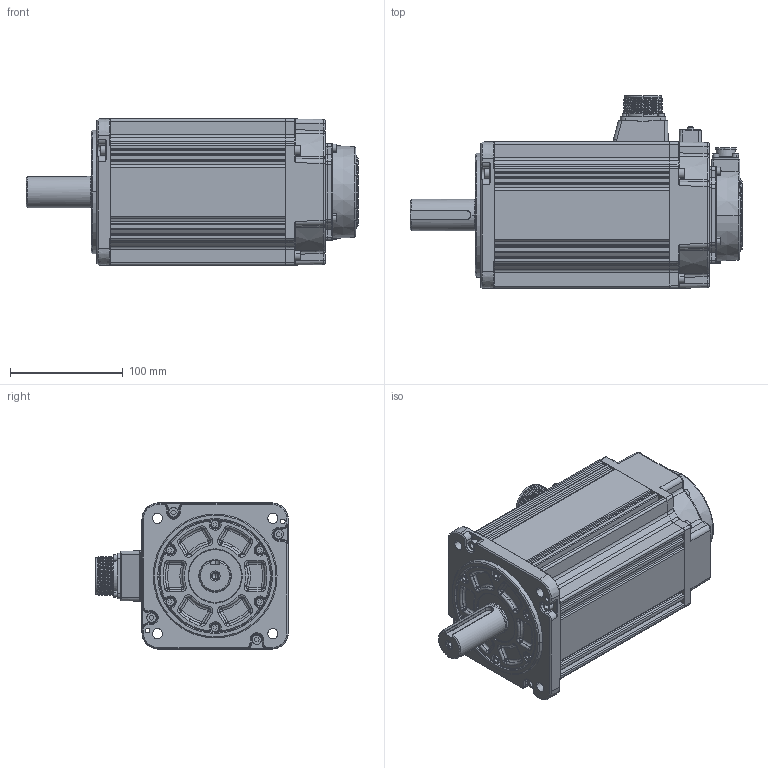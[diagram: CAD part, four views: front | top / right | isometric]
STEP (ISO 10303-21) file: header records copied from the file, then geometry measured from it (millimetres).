
FILE_DESCRIPTION (( 'STEP AP203' ), '1' );
FILE_NAME ('MS6S-130CN30BZ2-43P0.STEP', '2024-06-17T01:21:18', ( '' ), ( '' ), 'SwSTEP 2.0', 'SolidWorks 2022', '' );
FILE_SCHEMA (( 'CONFIG_CONTROL_DESIGN' ));
Products named in the file (1): MS6S-130CN30BZ2-43P0
Bounding box: 294.8 x 171.1 x 130 mm (x, y, z)
Volume: 3274374.2 mm3; surface area: 304353.9 mm2
Topology: 40 solids, 44 shells, 3304 faces, 8533 edges, 5421 vertices
Faces by surface type: plane 1460, cylinder 812, bspline 428, cone 297, torus 291, sphere 16
Entity records: 116177 total; most frequent: CARTESIAN_POINT 39212, ORIENTED_EDGE 16866, DIRECTION 14704, EDGE_CURVE 8433, VERTEX_POINT 5411, AXIS2_PLACEMENT_3D 5171, VECTOR 4362, LINE 4362
